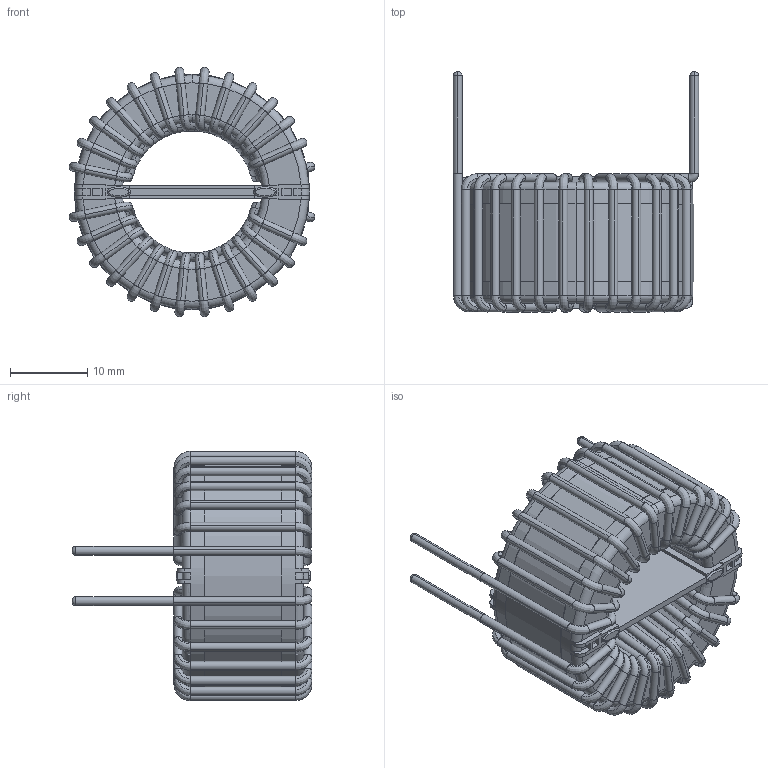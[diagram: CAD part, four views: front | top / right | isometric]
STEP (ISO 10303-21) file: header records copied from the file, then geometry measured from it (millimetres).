
FILE_DESCRIPTION (( 'STEP AP203' ), '1' );
FILE_NAME ('HN-H-133U-10A.STEP', '2020-07-09T10:17:04', ( 'Windows User' ), ( '' ), 'SwSTEP 2.0', 'SolidWorks 2015', '' );
FILE_SCHEMA (( 'CONFIG_CONTROL_DESIGN' ));
Length unit declared in the file: inch
Products named in the file (4): HN-H-133U-10A - CORE; HN-H-133U-10A; HN-H-133U-10A - COIL; HN-H-133U-10A - FRAME
Assembly tree (3 placements, depth 2):
  HN-H-133U-10A
    HN-H-133U-10A - CORE
    HN-H-133U-10A - COIL
    HN-H-133U-10A - FRAME
Bounding box: 31.67 x 30.96 x 32.17 mm (x, y, z)
Volume: 8889.6 mm3; surface area: 10612.5 mm2
Topology: 13 solids, 13 shells, 691 faces, 1975 edges, 1312 vertices
Faces by surface type: cylinder 279, torus 144, bspline 136, plane 132
Entity records: 32929 total; most frequent: CARTESIAN_POINT 14658, ORIENTED_EDGE 3950, DIRECTION 3821, EDGE_CURVE 1975, AXIS2_PLACEMENT_3D 1609, VERTEX_POINT 1312, CIRCLE 1048, EDGE_LOOP 697
